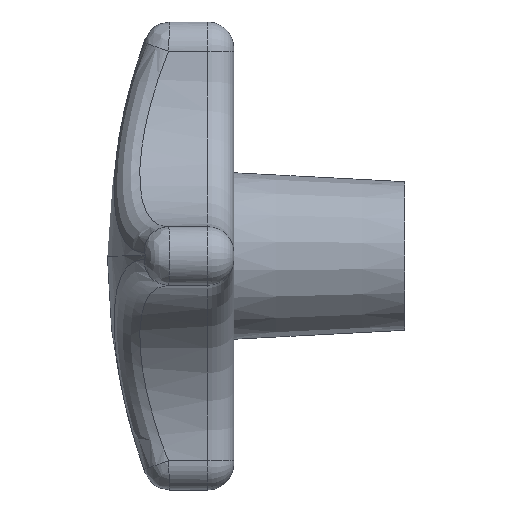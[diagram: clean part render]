
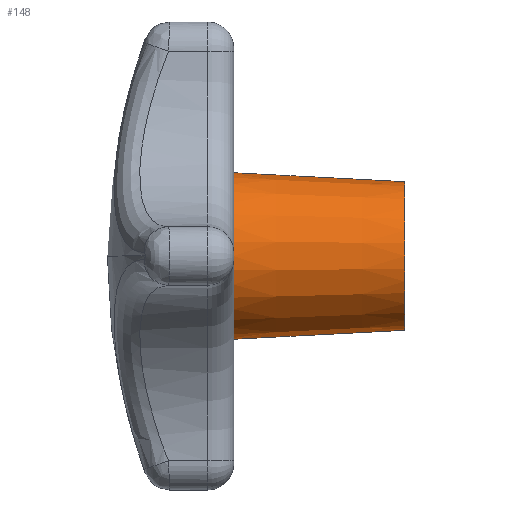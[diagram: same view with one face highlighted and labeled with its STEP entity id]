
A CAD part, left-side view. The second image highlights one B-rep face of the part: STEP entity #148.
In plain terms, the highlighted conical face has half-angle 3 degrees and reference radius 10 mm.
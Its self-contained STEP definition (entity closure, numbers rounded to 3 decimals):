
#147 = EDGE_LOOP ( 'NONE', ( #149, #150, #152, #153 ) ) ;
#148 = ADVANCED_FACE ( 'NONE', ( #3214 ), #3208, .T. ) ;
#149 = ORIENTED_EDGE ( 'NONE', *, *, #166, .F. ) ;
#150 = ORIENTED_EDGE ( 'NONE', *, *, #151, .T. ) ;
#151 = EDGE_CURVE ( 'NONE', #164, #163, #3207, .T. ) ;
#152 = ORIENTED_EDGE ( 'NONE', *, *, #172, .T. ) ;
#153 = ORIENTED_EDGE ( 'NONE', *, *, #243, .F. ) ;
#163 = VERTEX_POINT ( 'NONE', #3244 ) ;
#164 = VERTEX_POINT ( 'NONE', #3243 ) ;
#166 = EDGE_CURVE ( 'NONE', #164, #167, #3242, .T. ) ;
#167 = VERTEX_POINT ( 'NONE', #3238 ) ;
#170 = VERTEX_POINT ( 'NONE', #3232 ) ;
#172 = EDGE_CURVE ( 'NONE', #163, #170, #3231, .T. ) ;
#243 = EDGE_CURVE ( 'NONE', #167, #170, #3447, .T. ) ;
#3199 = DIRECTION ( 'NONE',  ( 0., 0., 1. ) ) ;
#3200 = DIRECTION ( 'NONE',  ( 0., 1., 0. ) ) ;
#3201 = CARTESIAN_POINT ( 'NONE',  ( 0., -23., 0. ) ) ;
#3202 = AXIS2_PLACEMENT_3D ( 'NONE', #3201, #3200, #3199 ) ;
#3203 = DIRECTION ( 'NONE',  ( 0., 0., 1. ) ) ;
#3204 = DIRECTION ( 'NONE',  ( 0., 1., 0. ) ) ;
#3205 = CARTESIAN_POINT ( 'NONE',  ( 0., -23., 0. ) ) ;
#3206 = AXIS2_PLACEMENT_3D ( 'NONE', #3205, #3204, #3203 ) ;
#3207 = CIRCLE ( 'NONE', #3202, 10. ) ;
#3208 = CONICAL_SURFACE ( 'NONE', #3206, 10., 0.052 ) ;
#3214 = FACE_OUTER_BOUND ( 'NONE', #147, .T. ) ;
#3228 = DIRECTION ( 'NONE',  ( 0., 0.999, 0.052 ) ) ;
#3229 = VECTOR ( 'NONE', #3228, 1000. ) ;
#3230 = CARTESIAN_POINT ( 'NONE',  ( 0., -23., 10. ) ) ;
#3231 = LINE ( 'NONE', #3230, #3229 ) ;
#3232 = CARTESIAN_POINT ( 'NONE',  ( 0., 0., 11.205 ) ) ;
#3238 = CARTESIAN_POINT ( 'NONE',  ( 0., 0., -11.205 ) ) ;
#3239 = DIRECTION ( 'NONE',  ( 0., 0.999, -0.052 ) ) ;
#3240 = VECTOR ( 'NONE', #3239, 1000. ) ;
#3241 = CARTESIAN_POINT ( 'NONE',  ( 0., -23., -10. ) ) ;
#3242 = LINE ( 'NONE', #3241, #3240 ) ;
#3243 = CARTESIAN_POINT ( 'NONE',  ( 0., -23., -10. ) ) ;
#3244 = CARTESIAN_POINT ( 'NONE',  ( 0., -23., 10. ) ) ;
#3443 = DIRECTION ( 'NONE',  ( 0., 0., 1. ) ) ;
#3444 = DIRECTION ( 'NONE',  ( 0., 1., 0. ) ) ;
#3445 = CARTESIAN_POINT ( 'NONE',  ( 0., 0., 0. ) ) ;
#3446 = AXIS2_PLACEMENT_3D ( 'NONE', #3445, #3444, #3443 ) ;
#3447 = CIRCLE ( 'NONE', #3446, 11.205 ) ;
